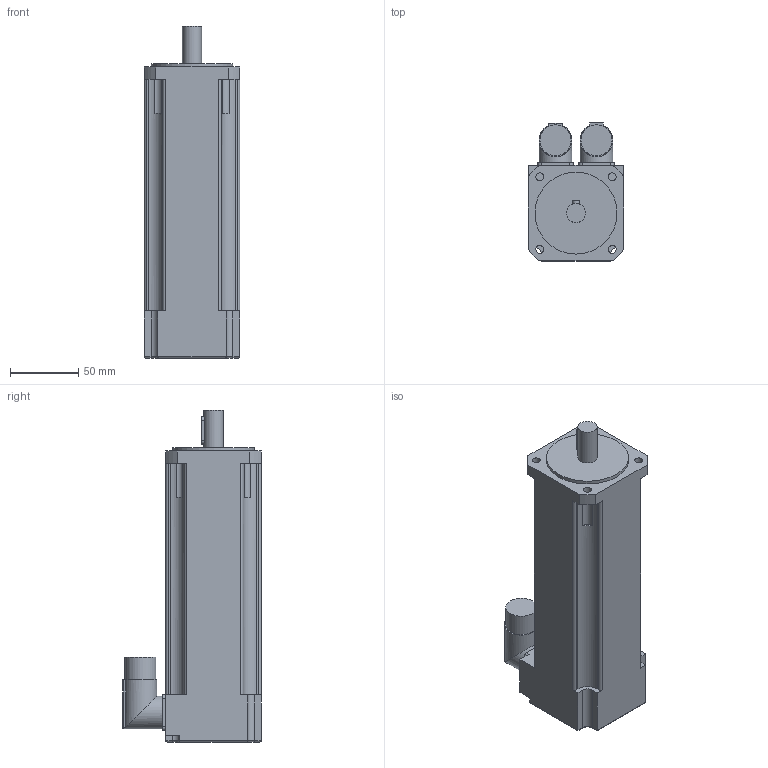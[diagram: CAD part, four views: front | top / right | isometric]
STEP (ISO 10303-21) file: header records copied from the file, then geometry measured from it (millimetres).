
FILE_DESCRIPTION(/* description */ (''),/* implementation_level */ '2;1');
FILE_NAME(/* name */ '\\Lafnas01\disegni\Archivi Lafert\3D\CAD 3D\MODELLI\Assiemi clienti\Serad\Modelli 3D Serad\B36Q\Resolver\Res With Brake\B3603Qxx6B052033.ipt.stp',/* time_stamp */ '2015-09-07T10:49:27+02:00',/* author */ ('Pastrello Ylenia'),/* organization */ (''),/* preprocessor_version */ 'ST-DEVELOPER v15.6',/* originating_system */ 'Autodesk Inventor 2015',/* authorisation */ '');
FILE_SCHEMA (('AUTOMOTIVE_DESIGN { 1 0 10303 214 3 1 1 }'));
Length unit declared in the file: millimetre
Products named in the file (1): B3603Qxx6B052033
Bounding box: 70 x 101.5 x 243 mm (x, y, z)
Volume: 988417.1 mm3; surface area: 77142.3 mm2
Topology: 1 solids, 1 shells, 121 faces, 322 edges, 210 vertices
Faces by surface type: plane 59, cylinder 58, torus 4
Full cylindrical faces by diameter (mm): 5.8 x4, 14 x1, 22.7 x2, 24 x2, 60 x1
Entity records: 3806 total; most frequent: CARTESIAN_POINT 678, DIRECTION 676, ORIENTED_EDGE 624, EDGE_CURVE 312, AXIS2_PLACEMENT_3D 244, VERTEX_POINT 210, LINE 188, VECTOR 188
